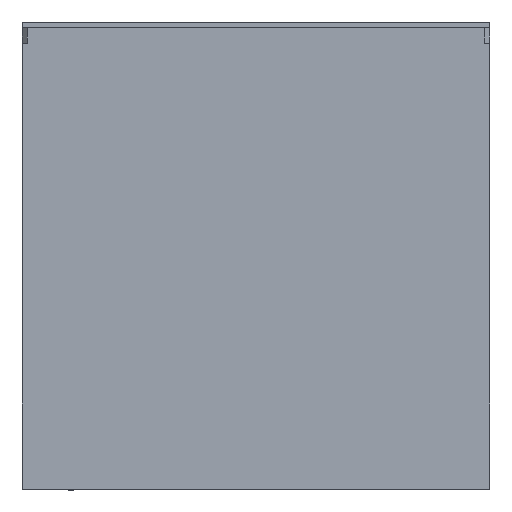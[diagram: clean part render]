
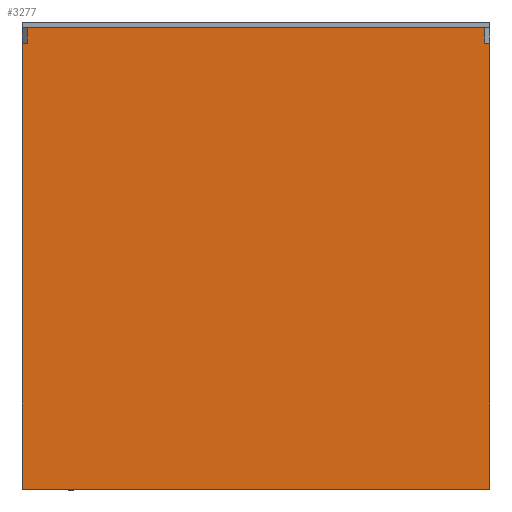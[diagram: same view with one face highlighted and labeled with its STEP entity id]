
A CAD part, top view. The second image highlights one B-rep face of the part: STEP entity #3277.
In plain terms, the highlighted planar face has unit normal (0, 0, 1).
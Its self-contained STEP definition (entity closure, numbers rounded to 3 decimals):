
#232 = CARTESIAN_POINT ( 'NONE',  ( 22., 21.9, 17.5 ) ) ;
#258 = CARTESIAN_POINT ( 'NONE',  ( 22.5, -22.5, 17.5 ) ) ;
#364 = DIRECTION ( 'NONE',  ( -1., 0., 0. ) ) ;
#414 = DIRECTION ( 'NONE',  ( 0., 0., -1. ) ) ;
#1012 = VECTOR ( 'NONE', #4308, 1000. ) ;
#1050 = EDGE_CURVE ( 'NONE', #8391, #9044, #3749, .T. ) ;
#1108 = CARTESIAN_POINT ( 'NONE',  ( 22.5, 22.5, 17.5 ) ) ;
#1540 = CARTESIAN_POINT ( 'NONE',  ( -22.5, 20.4, 17.5 ) ) ;
#1760 = ORIENTED_EDGE ( 'NONE', *, *, #1050, .F. ) ;
#1882 = CARTESIAN_POINT ( 'NONE',  ( -22.5, 20.4, 17.5 ) ) ;
#2137 = LINE ( 'NONE', #4993, #7264 ) ;
#2256 = EDGE_CURVE ( 'NONE', #7197, #9029, #7071, .T. ) ;
#2279 = ORIENTED_EDGE ( 'NONE', *, *, #8177, .T. ) ;
#2392 = DIRECTION ( 'NONE',  ( 0., -1., 0. ) ) ;
#2458 = VERTEX_POINT ( 'NONE', #258 ) ;
#2483 = VECTOR ( 'NONE', #9076, 1000. ) ;
#2505 = CARTESIAN_POINT ( 'NONE',  ( 22.5, 20.4, 17.5 ) ) ;
#2670 = LINE ( 'NONE', #3274, #7856 ) ;
#2706 = DIRECTION ( 'NONE',  ( -1., 0., 0. ) ) ;
#2831 = EDGE_CURVE ( 'NONE', #6029, #7447, #4391, .T. ) ;
#2916 = ORIENTED_EDGE ( 'NONE', *, *, #6314, .T. ) ;
#2999 = CARTESIAN_POINT ( 'NONE',  ( -22., 21.9, 17.5 ) ) ;
#3025 = EDGE_CURVE ( 'NONE', #9044, #2458, #2670, .T. ) ;
#3152 = EDGE_CURVE ( 'NONE', #2458, #9029, #2137, .T. ) ;
#3274 = CARTESIAN_POINT ( 'NONE',  ( 22.5, 22.5, 17.5 ) ) ;
#3277 = ADVANCED_FACE ( 'NONE', ( #6758 ), #6039, .F. ) ;
#3362 = CARTESIAN_POINT ( 'NONE',  ( -22., 20.4, 17.5 ) ) ;
#3369 = ORIENTED_EDGE ( 'NONE', *, *, #6740, .F. ) ;
#3749 = LINE ( 'NONE', #1540, #6088 ) ;
#3881 = EDGE_LOOP ( 'NONE', ( #8674, #1760, #2916, #5969, #2279, #3369, #6541, #7159 ) ) ;
#4047 = LINE ( 'NONE', #1882, #4140 ) ;
#4140 = VECTOR ( 'NONE', #8235, 1000. ) ;
#4308 = DIRECTION ( 'NONE',  ( 0., -1., 0. ) ) ;
#4391 = LINE ( 'NONE', #8042, #5440 ) ;
#4781 = CARTESIAN_POINT ( 'NONE',  ( 22., 20.4, 17.5 ) ) ;
#4993 = CARTESIAN_POINT ( 'NONE',  ( 22.5, -22.5, 17.5 ) ) ;
#5407 = DIRECTION ( 'NONE',  ( 0., -1., 0. ) ) ;
#5440 = VECTOR ( 'NONE', #8770, 1000. ) ;
#5530 = LINE ( 'NONE', #8973, #2483 ) ;
#5948 = VERTEX_POINT ( 'NONE', #3362 ) ;
#5969 = ORIENTED_EDGE ( 'NONE', *, *, #2831, .F. ) ;
#6029 = VERTEX_POINT ( 'NONE', #6474 ) ;
#6039 = PLANE ( 'NONE',  #8290 ) ;
#6088 = VECTOR ( 'NONE', #6550, 1000. ) ;
#6259 = CARTESIAN_POINT ( 'NONE',  ( -22.5, 22.5, 17.5 ) ) ;
#6314 = EDGE_CURVE ( 'NONE', #8391, #7447, #5530, .T. ) ;
#6474 = CARTESIAN_POINT ( 'NONE',  ( -22., 21.9, 17.5 ) ) ;
#6541 = ORIENTED_EDGE ( 'NONE', *, *, #2256, .T. ) ;
#6550 = DIRECTION ( 'NONE',  ( 1., 0., 0. ) ) ;
#6740 = EDGE_CURVE ( 'NONE', #7197, #5948, #4047, .T. ) ;
#6758 = FACE_OUTER_BOUND ( 'NONE', #3881, .T. ) ;
#6843 = VECTOR ( 'NONE', #2392, 1000. ) ;
#6922 = CARTESIAN_POINT ( 'NONE',  ( -22.5, 20.4, 17.5 ) ) ;
#7071 = LINE ( 'NONE', #6259, #1012 ) ;
#7159 = ORIENTED_EDGE ( 'NONE', *, *, #3152, .F. ) ;
#7197 = VERTEX_POINT ( 'NONE', #6922 ) ;
#7264 = VECTOR ( 'NONE', #2706, 1000. ) ;
#7302 = CARTESIAN_POINT ( 'NONE',  ( -22.5, -22.5, 17.5 ) ) ;
#7447 = VERTEX_POINT ( 'NONE', #232 ) ;
#7856 = VECTOR ( 'NONE', #5407, 1000. ) ;
#7997 = LINE ( 'NONE', #2999, #6843 ) ;
#8042 = CARTESIAN_POINT ( 'NONE',  ( -22.5, 21.9, 17.5 ) ) ;
#8177 = EDGE_CURVE ( 'NONE', #6029, #5948, #7997, .T. ) ;
#8235 = DIRECTION ( 'NONE',  ( 1., 0., 0. ) ) ;
#8290 = AXIS2_PLACEMENT_3D ( 'NONE', #1108, #414, #364 ) ;
#8391 = VERTEX_POINT ( 'NONE', #4781 ) ;
#8674 = ORIENTED_EDGE ( 'NONE', *, *, #3025, .F. ) ;
#8770 = DIRECTION ( 'NONE',  ( 1., 0., 0. ) ) ;
#8973 = CARTESIAN_POINT ( 'NONE',  ( 22., 21.9, 17.5 ) ) ;
#9029 = VERTEX_POINT ( 'NONE', #7302 ) ;
#9044 = VERTEX_POINT ( 'NONE', #2505 ) ;
#9076 = DIRECTION ( 'NONE',  ( 0., 1., 0. ) ) ;
